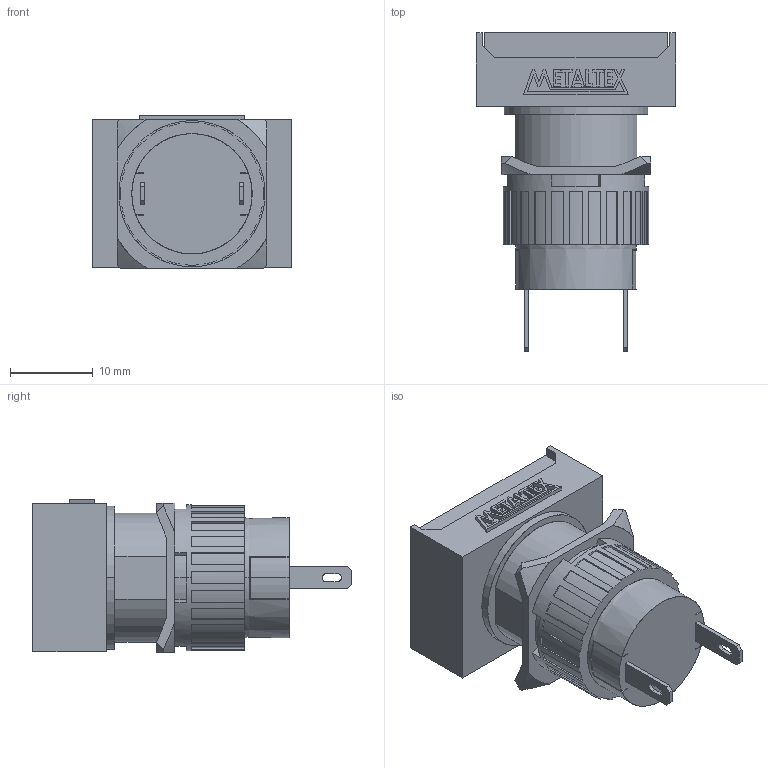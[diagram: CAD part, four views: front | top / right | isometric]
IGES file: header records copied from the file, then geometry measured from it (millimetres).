
Start section: SolidWorks IGES file using analytic representation for surfaces
Global section: file name: D:\X - Arquivos\PROEX\Empresas\P11 - METALTEX\01 - Produtos\IGES\Terceira remessa\Etapa 3\P16-PL.IGS; native system: SolidWorks 2012; preprocessor: SolidWorks 2012; author: Usuario; date: 180215.132655; units: millimetre
Bounding box: 24 x 38.4 x 18.43 mm (x, y, z)
Surface area: 4353.7 mm2 (no closed solid volume)
Topology: 0 solids, 0 shells, 305 faces, 2024 edges, 2024 vertices
Faces by surface type: bspline 246, revolution 59
